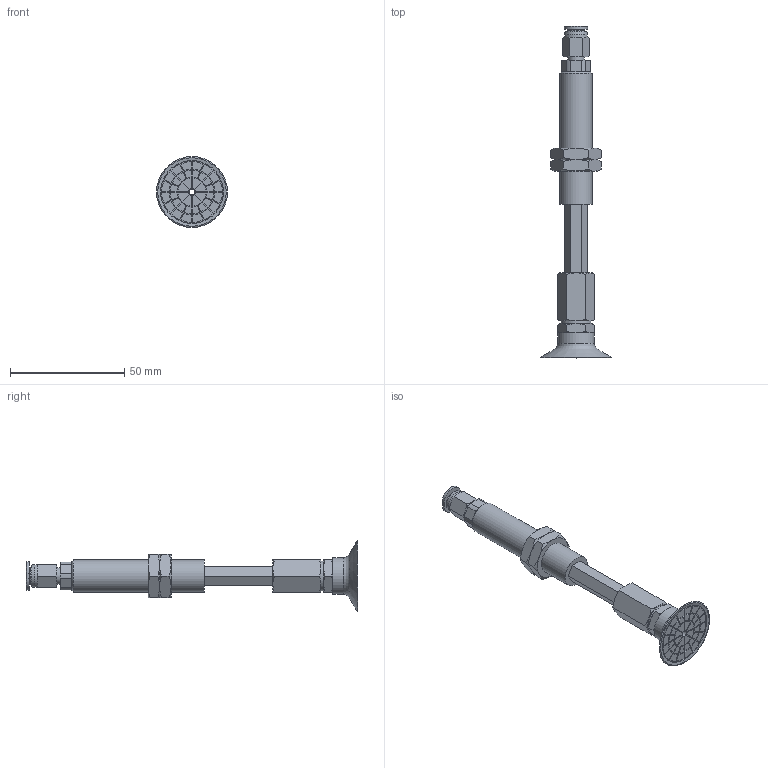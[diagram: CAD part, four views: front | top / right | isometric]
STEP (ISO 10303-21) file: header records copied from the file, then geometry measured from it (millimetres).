
FILE_DESCRIPTION(('STEP AP203'),'1');
FILE_NAME('-O.stp','2025-08-26T08:11:57',(' '),(' '),'Spatial InterOp 3D',' ',' ');
FILE_SCHEMA(('CONFIG_CONTROL_DESIGN'));
Length unit declared in the file: millimetre
Products named in the file (8): BNABPATH-30B-30-※-O; NAPATH-30-30--M; ADAPTER; Nut-25-S; NAPATH-30-30--F; TN-PA-30B-M6; BPAG-30B-※; PC-C_06-M5
Assembly tree (8 placements, depth 2):
  BNABPATH-30B-30-※-O
    NAPATH-30-30--M
    ADAPTER
    Nut-25-S  x2
    NAPATH-30-30--F
    TN-PA-30B-M6
    BPAG-30B-※
    PC-C_06-M5
Bounding box: 31.04 x 145.18 x 31.04 mm (x, y, z)
Volume: 19794.2 mm3; surface area: 16089.7 mm2
Topology: 7 solids, 10 shells, 409 faces, 943 edges, 600 vertices
Faces by surface type: plane 214, cylinder 104, cone 76, torus 8, bspline 4, revolution 3
Full cylindrical faces by diameter (mm): 2.5 x1, 3 x3, 4 x2, 4.134 x1, 4.917 x1, 5 x1, 6 x3, 7 x1, 7.4 x1, 8.2 x1, 10 x3, 12.917 x2, 13 x1, 14 x1, 16 x1, 27.5 x1
Entity records: 11533 total; most frequent: CARTESIAN_POINT 2532, DIRECTION 1812, ORIENTED_EDGE 1676, EDGE_CURVE 840, AXIS2_PLACEMENT_3D 684, VERTEX_POINT 564, EDGE_LOOP 494, LINE 441
